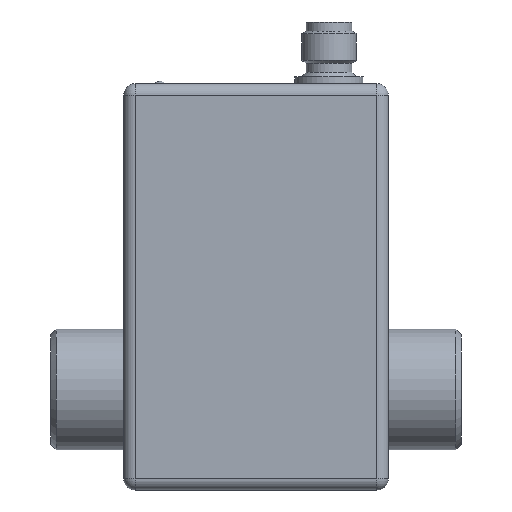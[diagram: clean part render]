
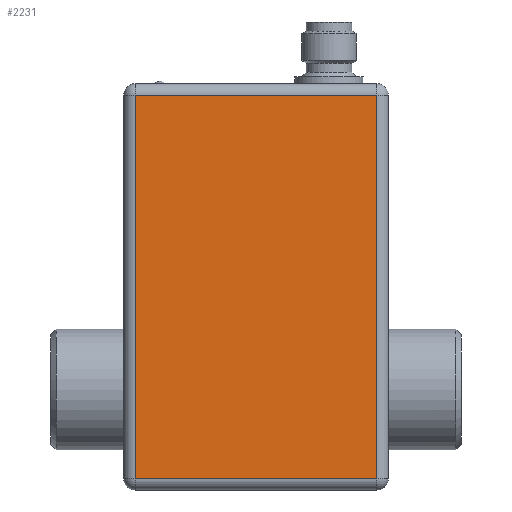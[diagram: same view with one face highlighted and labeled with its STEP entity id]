
A CAD part, front view. The second image highlights one B-rep face of the part: STEP entity #2231.
In plain terms, the highlighted planar face has unit normal (0, -1, 0).
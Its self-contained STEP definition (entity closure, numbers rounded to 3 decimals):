
#84=PLANE('',#2522);
#213=FACE_OUTER_BOUND('',#344,.T.);
#344=EDGE_LOOP('',(#1905,#1906,#1907,#1908));
#491=LINE('',#3838,#636);
#492=LINE('',#3841,#637);
#493=LINE('',#3843,#638);
#496=LINE('',#3850,#641);
#636=VECTOR('',#3181,10.);
#637=VECTOR('',#3186,10.);
#638=VECTOR('',#3189,10.);
#641=VECTOR('',#3200,10.);
#998=VERTEX_POINT('',#3813);
#1000=VERTEX_POINT('',#3821);
#1002=VERTEX_POINT('',#3830);
#1003=VERTEX_POINT('',#3834);
#1303=EDGE_CURVE('',#1003,#1002,#491,.T.);
#1304=EDGE_CURVE('',#1000,#1003,#492,.T.);
#1305=EDGE_CURVE('',#1002,#998,#493,.T.);
#1308=EDGE_CURVE('',#998,#1000,#496,.T.);
#1905=ORIENTED_EDGE('',*,*,#1303,.F.);
#1906=ORIENTED_EDGE('',*,*,#1304,.F.);
#1907=ORIENTED_EDGE('',*,*,#1308,.F.);
#1908=ORIENTED_EDGE('',*,*,#1305,.F.);
#2231=ADVANCED_FACE('',(#213),#84,.F.);
#2522=AXIS2_PLACEMENT_3D('',#3856,#3209,#3210);
#3181=DIRECTION('',(0.,0.,-1.));
#3186=DIRECTION('',(1.,0.,0.));
#3189=DIRECTION('',(-1.,0.,0.));
#3200=DIRECTION('',(0.,0.,1.));
#3209=DIRECTION('center_axis',(0.,1.,0.));
#3210=DIRECTION('ref_axis',(0.,0.,1.));
#3813=CARTESIAN_POINT('',(-26.5,-18.,-19.5));
#3821=CARTESIAN_POINT('',(-26.5,-18.,64.5));
#3830=CARTESIAN_POINT('',(26.5,-18.,-19.5));
#3834=CARTESIAN_POINT('',(26.5,-18.,64.5));
#3838=CARTESIAN_POINT('',(26.5,-18.,0.25));
#3841=CARTESIAN_POINT('',(14.5,-18.,64.5));
#3843=CARTESIAN_POINT('',(-14.5,-18.,-19.5));
#3850=CARTESIAN_POINT('',(-26.5,-18.,44.75));
#3856=CARTESIAN_POINT('Origin',(0.,-18.,22.5));
